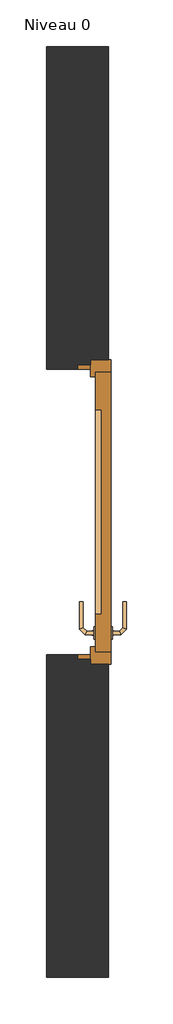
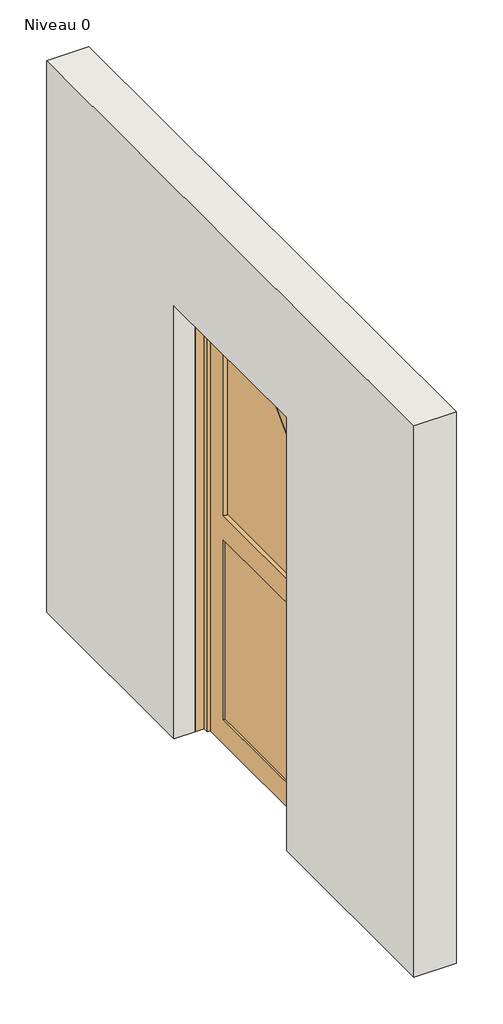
# One storey: 1 door, 1 wall.
"""IFC4 building model written with IfcOpenShell, lengths in millimetres."""

from ifc_helpers import new_model, si_unit, origin, place, context, project, spatial, faceted_brep, transform, mapped, element, save
from components import door_5b9d6ae5

model = new_model("IFC4")

# Units and contexts
model_context = context("Model", 3, world=origin())
ifc_project = project(units=[si_unit("LENGTHUNIT", "METRE", prefix="MILLI")], contexts=[model_context])

# Site, building, storey
site = spatial("IfcSite", under=ifc_project)
building = spatial("IfcBuilding", under=site)
storey = spatial("IfcBuildingStorey", under=building, Name="Niveau 0", Elevation=0.0)

# Door
placement = place(None, origin())
door_shape = door_5b9d6ae5(model_context)
element("IfcDoor", 1, ObjectType="Entrée (avec angle d'ouverture) : PV Triangulaire (0.90 m x 2.15 m)", at=placement, inside=storey, context=model_context, shape_type="MappedRepresentation", body=[
    mapped(door_shape, transform((-11656.7635176, -633.5459105, 0.0), x_axis=(0.0, 1.0, 0.0), y_axis=(-1.0, 0.0, 0.0), z_axis=(0.0, 0.0, 1.0))),
])

# Wall
element("IfcWall", 2, ObjectType="Générique - Ext. 200 mm", at=placement, inside=storey, context=model_context, shape_type="Brep", body=[
    faceted_brep([(-11556.7635176, 856.4540895, 0.0), (-11556.7635176, 856.4540895, 2750.0), (-11556.7635176, -2143.5459105, 2750.0), (-11556.7635176, -2143.5459105, 0.0), (-11556.7635176, -1133.5459105, 0.0), (-11556.7635176, -1133.5459105, 2190.0), (-11556.7635176, -153.5459105, 2190.0), (-11556.7635176, -153.5459105, 0.0), (-11756.7635176, 856.4540895, 2750.0), (-11756.7635176, 856.4540895, 0.0), (-11756.7635176, -183.5459105, 0.0), (-11756.7635176, -183.5459105, 2160.0), (-11756.7635176, -1103.5459105, 2160.0), (-11756.7635176, -1103.5459105, 0.0), (-11756.7635176, -2143.5459105, 0.0), (-11756.7635176, -2143.5459105, 2750.0), (-11613.7635176, -153.5459105, 0.0), (-11613.7635176, -168.5459105, 0.0), (-11656.7635176, -168.5459105, 0.0), (-11656.7635176, -183.5459105, 0.0), (-11656.7635176, -1103.5459105, 0.0), (-11656.7635176, -1118.5459105, 0.0), (-11613.7635176, -1118.5459105, 0.0), (-11613.7635176, -1133.5459105, 0.0), (-11656.7635176, -183.5459105, 2160.0), (-11656.7635176, -1103.5459105, 2160.0), (-11613.7635176, -153.5459105, 2190.0), (-11613.7635176, -1133.5459105, 2190.0), (-11613.7635176, -1118.5459105, 2175.0), (-11613.7635176, -168.5459105, 2175.0), (-11656.7635176, -1118.5459105, 2175.0), (-11656.7635176, -168.5459105, 2175.0)], [[[0, 1, 2, 3, 4, 5, 6, 7]], [[8, 9, 10, 11, 12, 13, 14, 15]], [[9, 0, 7, 16, 17, 18, 19, 10]], [[3, 14, 13, 20, 21, 22, 23, 4]], [[1, 0, 9, 8]], [[2, 1, 8, 15]], [[3, 2, 15, 14]], [[24, 25, 12, 11]], [[19, 24, 11, 10]], [[25, 20, 13, 12]], [[16, 26, 27, 23, 22, 28, 29, 17]], [[23, 27, 5, 4]], [[27, 26, 6, 5]], [[26, 16, 7, 6]], [[28, 22, 21, 30]], [[25, 24, 19, 18, 31, 30, 21, 20]], [[29, 28, 30, 31]], [[17, 29, 31, 18]]]),
])

save(model, "model.ifc")
